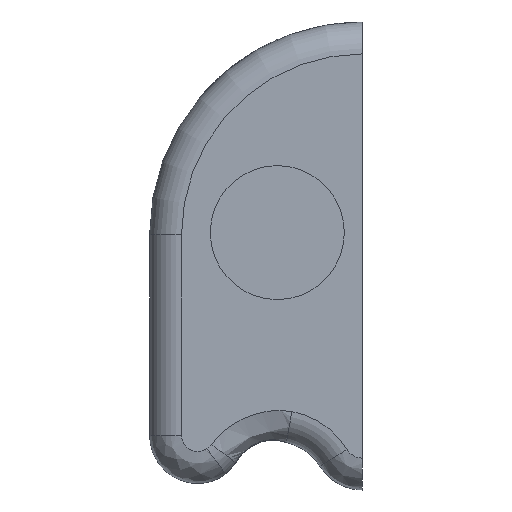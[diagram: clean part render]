
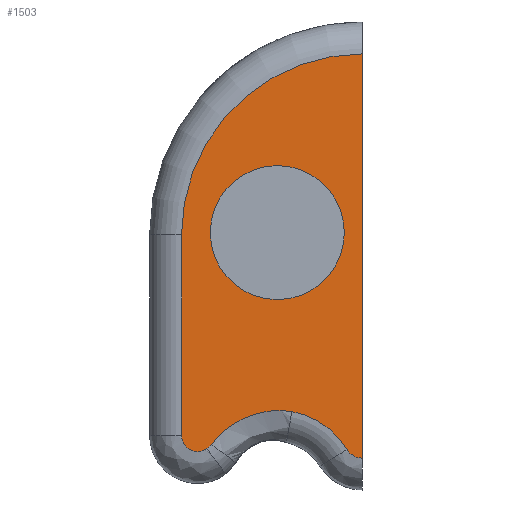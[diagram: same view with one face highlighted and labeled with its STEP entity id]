
A CAD part, front view. The second image highlights one B-rep face of the part: STEP entity #1503.
In plain terms, the highlighted planar face has unit normal (0, -1, 0).
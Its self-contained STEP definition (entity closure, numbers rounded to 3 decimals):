
#45=FACE_BOUND('',#509,.T.);
#79=PLANE('',#1664);
#119=B_SPLINE_CURVE_WITH_KNOTS('',3,(#3886,#3887,#3888,#3889),
 .UNSPECIFIED.,.F.,.F.,(4,4),(0.,0.058),.UNSPECIFIED.);
#120=B_SPLINE_CURVE_WITH_KNOTS('',3,(#3945,#3946,#3947,#3948,#3949,#3950),
 .UNSPECIFIED.,.F.,.F.,(4,1,1,4),(1.393,1.636,1.88,
2.246),.UNSPECIFIED.);
#155=LINE('',#2405,#250);
#213=LINE('',#3912,#308);
#250=VECTOR('',#1799,10.);
#308=VECTOR('',#2021,10.);
#416=FACE_OUTER_BOUND('',#508,.T.);
#508=EDGE_LOOP('',(#1393,#1394,#1395,#1396,#1397,#1398,#1399,#1400));
#509=EDGE_LOOP('',(#1401));
#582=CIRCLE('',#1628,6.3);
#585=CIRCLE('',#1645,1.5);
#591=CIRCLE('',#1653,7.681);
#596=CIRCLE('',#1663,17.);
#597=CIRCLE('',#1665,1.681);
#654=VERTEX_POINT('',#2402);
#655=VERTEX_POINT('',#2404);
#708=VERTEX_POINT('',#3784);
#733=VERTEX_POINT('',#3883);
#734=VERTEX_POINT('',#3885);
#735=VERTEX_POINT('',#3906);
#736=VERTEX_POINT('',#3910);
#737=VERTEX_POINT('',#3943);
#739=VERTEX_POINT('',#3954);
#812=EDGE_CURVE('',#654,#655,#155,.T.);
#903=EDGE_CURVE('',#708,#708,#582,.T.);
#944=EDGE_CURVE('',#733,#734,#119,.T.);
#946=EDGE_CURVE('',#734,#735,#585,.T.);
#949=EDGE_CURVE('',#735,#736,#213,.T.);
#951=EDGE_CURVE('',#737,#733,#120,.T.);
#954=EDGE_CURVE('',#739,#737,#591,.T.);
#961=EDGE_CURVE('',#736,#654,#596,.T.);
#962=EDGE_CURVE('',#655,#739,#597,.T.);
#1393=ORIENTED_EDGE('',*,*,#812,.F.);
#1394=ORIENTED_EDGE('',*,*,#961,.F.);
#1395=ORIENTED_EDGE('',*,*,#949,.F.);
#1396=ORIENTED_EDGE('',*,*,#946,.F.);
#1397=ORIENTED_EDGE('',*,*,#944,.F.);
#1398=ORIENTED_EDGE('',*,*,#951,.F.);
#1399=ORIENTED_EDGE('',*,*,#954,.F.);
#1400=ORIENTED_EDGE('',*,*,#962,.F.);
#1401=ORIENTED_EDGE('',*,*,#903,.T.);
#1503=ADVANCED_FACE('',(#416,#45),#79,.F.);
#1628=AXIS2_PLACEMENT_3D('',#3785,#1940,#1941);
#1645=AXIS2_PLACEMENT_3D('',#3907,#2013,#2014);
#1653=AXIS2_PLACEMENT_3D('',#3956,#2030,#2031);
#1663=AXIS2_PLACEMENT_3D('',#3978,#2052,#2053);
#1664=AXIS2_PLACEMENT_3D('',#3979,#2054,#2055);
#1665=AXIS2_PLACEMENT_3D('',#3980,#2056,#2057);
#1799=DIRECTION('',(0.,0.,-1.));
#1940=DIRECTION('center_axis',(0.,1.,0.));
#1941=DIRECTION('ref_axis',(1.,0.,0.));
#2013=DIRECTION('center_axis',(0.,1.,0.));
#2014=DIRECTION('ref_axis',(-0.303,0.,-0.953));
#2021=DIRECTION('',(0.,0.,1.));
#2030=DIRECTION('center_axis',(0.,-1.,0.));
#2031=DIRECTION('ref_axis',(0.034,0.,0.999));
#2052=DIRECTION('center_axis',(0.,1.,0.));
#2053=DIRECTION('ref_axis',(0.,0.,1.));
#2054=DIRECTION('center_axis',(0.,1.,0.));
#2055=DIRECTION('ref_axis',(1.,0.,0.));
#2056=DIRECTION('center_axis',(0.,1.,0.));
#2057=DIRECTION('ref_axis',(0.,0.,-1.));
#2402=CARTESIAN_POINT('',(0.,-8.,17.));
#2404=CARTESIAN_POINT('',(0.,-8.,-21.));
#2405=CARTESIAN_POINT('',(0.,-8.,-2.));
#3784=CARTESIAN_POINT('',(-14.3,-8.,0.2));
#3785=CARTESIAN_POINT('Origin',(-8.,-8.,0.2));
#3883=CARTESIAN_POINT('',(-14.195,-8.,-19.7));
#3885=CARTESIAN_POINT('',(-14.613,-8.,-20.096));
#3886=CARTESIAN_POINT('Ctrl Pts',(-14.195,-8.,-19.7));
#3887=CARTESIAN_POINT('Ctrl Pts',(-14.311,-8.,-19.854));
#3888=CARTESIAN_POINT('Ctrl Pts',(-14.458,-8.,-19.982));
#3889=CARTESIAN_POINT('Ctrl Pts',(-14.613,-8.,-20.096));
#3906=CARTESIAN_POINT('',(-17.,-8.,-18.886));
#3907=CARTESIAN_POINT('Origin',(-15.5,-8.,-18.886));
#3910=CARTESIAN_POINT('',(-17.,-8.,0.));
#3912=CARTESIAN_POINT('',(-17.,-8.,-1.));
#3943=CARTESIAN_POINT('',(-6.622,-8.,-16.625));
#3945=CARTESIAN_POINT('Ctrl Pts',(-6.622,-8.,-16.625));
#3946=CARTESIAN_POINT('Ctrl Pts',(-7.422,-8.,-16.479));
#3947=CARTESIAN_POINT('Ctrl Pts',(-9.085,-8.,-16.513));
#3948=CARTESIAN_POINT('Ctrl Pts',(-11.813,-8.,-17.411));
#3949=CARTESIAN_POINT('Ctrl Pts',(-13.463,-8.,-18.725));
#3950=CARTESIAN_POINT('Ctrl Pts',(-14.195,-8.,-19.7));
#3954=CARTESIAN_POINT('',(-1.436,-8.,-20.192));
#3956=CARTESIAN_POINT('Origin',(-8.,-8.,-24.181));
#3978=CARTESIAN_POINT('Origin',(0.,-8.,0.));
#3979=CARTESIAN_POINT('Origin',(0.,-8.,-2.));
#3980=CARTESIAN_POINT('Origin',(0.,-8.,-19.319));
